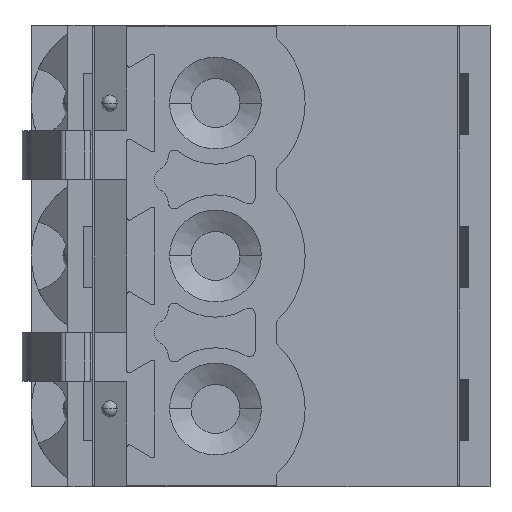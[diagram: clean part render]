
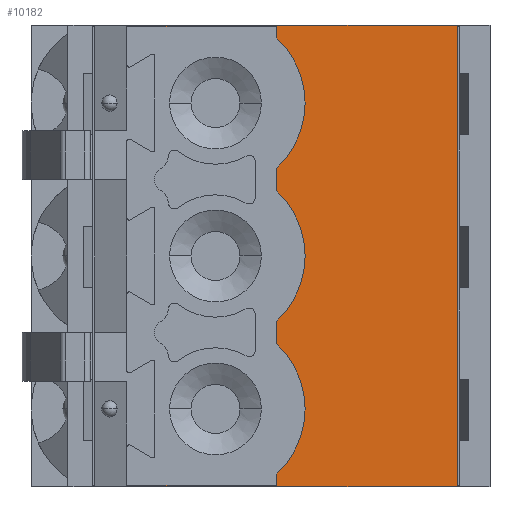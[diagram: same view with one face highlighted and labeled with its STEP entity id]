
A CAD part, front view. The second image highlights one B-rep face of the part: STEP entity #10182.
In plain terms, the highlighted planar face has unit normal (0, -1, 0).
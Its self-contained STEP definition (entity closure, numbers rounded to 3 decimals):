
#2503=DIRECTION('',(0.,0.,1.));
#2504=VECTOR('',#2503,0.744);
#2505=CARTESIAN_POINT('',(8.325,8.6,-44.797));
#2506=LINE('',#2505,#2504);
#2507=CARTESIAN_POINT('',(6.355,8.6,-41.925));
#2508=DIRECTION('',(0.,-1.,0.));
#2509=DIRECTION('',(0.679,0.,-0.734));
#2510=AXIS2_PLACEMENT_3D('',#2507,#2508,#2509);
#2512=DIRECTION('',(0.,0.,1.));
#2513=VECTOR('',#2512,0.048);
#2514=CARTESIAN_POINT('',(3.425,8.6,-39.425));
#2515=LINE('',#2514,#2513);
#2516=DIRECTION('',(1.,0.,0.));
#2517=VECTOR('',#2516,10.8);
#2518=CARTESIAN_POINT('',(3.425,8.6,-39.377));
#2519=LINE('',#2518,#2517);
#2520=DIRECTION('',(0.,0.,-1.));
#2521=VECTOR('',#2520,15.096);
#2522=CARTESIAN_POINT('',(14.225,8.6,-39.377));
#2523=LINE('',#2522,#2521);
#2524=DIRECTION('',(1.,0.,0.));
#2525=VECTOR('',#2524,4.9);
#2526=CARTESIAN_POINT('',(3.425,8.6,-54.425));
#2527=LINE('',#2526,#2525);
#2528=DIRECTION('',(0.,0.,1.));
#2529=VECTOR('',#2528,0.372);
#2530=CARTESIAN_POINT('',(8.325,8.6,-54.425));
#2531=LINE('',#2530,#2529);
#2532=CARTESIAN_POINT('',(6.355,8.6,-51.925));
#2533=DIRECTION('',(0.,-1.,0.));
#2534=DIRECTION('',(0.679,0.,-0.734));
#2535=AXIS2_PLACEMENT_3D('',#2532,#2533,#2534);
#2537=DIRECTION('',(0.,0.,1.));
#2538=VECTOR('',#2537,0.744);
#2539=CARTESIAN_POINT('',(8.325,8.6,-49.797));
#2540=LINE('',#2539,#2538);
#2541=CARTESIAN_POINT('',(6.355,8.6,-46.925));
#2542=DIRECTION('',(0.,-1.,0.));
#2543=DIRECTION('',(0.679,0.,-0.734));
#2544=AXIS2_PLACEMENT_3D('',#2541,#2542,#2543);
#3015=DIRECTION('',(1.,0.,0.));
#3016=VECTOR('',#3015,4.9);
#3017=CARTESIAN_POINT('',(3.425,8.6,-39.425));
#3018=LINE('',#3017,#3016);
#3031=DIRECTION('',(0.,0.,-1.));
#3032=VECTOR('',#3031,0.372);
#3033=CARTESIAN_POINT('',(8.325,8.6,-39.425));
#3034=LINE('',#3033,#3032);
#3301=DIRECTION('',(0.,0.,-1.));
#3302=VECTOR('',#3301,0.048);
#3303=CARTESIAN_POINT('',(3.425,8.6,-54.425));
#3304=LINE('',#3303,#3302);
#3331=DIRECTION('',(1.,0.,0.));
#3332=VECTOR('',#3331,10.8);
#3333=CARTESIAN_POINT('',(3.425,8.6,-54.473));
#3334=LINE('',#3333,#3332);
#5473=CARTESIAN_POINT('',(14.225,8.6,-39.377));
#5474=CARTESIAN_POINT('',(14.225,8.6,-54.473));
#5475=VERTEX_POINT('',#5473);
#5476=VERTEX_POINT('',#5474);
#5477=CARTESIAN_POINT('',(8.325,8.6,-44.797));
#5478=CARTESIAN_POINT('',(8.325,8.6,-44.053));
#5479=VERTEX_POINT('',#5477);
#5480=VERTEX_POINT('',#5478);
#5481=CARTESIAN_POINT('',(8.325,8.6,-39.797));
#5482=VERTEX_POINT('',#5481);
#5483=CARTESIAN_POINT('',(8.325,8.6,-39.425));
#5484=VERTEX_POINT('',#5483);
#5485=CARTESIAN_POINT('',(3.425,8.6,-39.425));
#5486=VERTEX_POINT('',#5485);
#5487=CARTESIAN_POINT('',(3.425,8.6,-39.377));
#5488=VERTEX_POINT('',#5487);
#5489=CARTESIAN_POINT('',(3.425,8.6,-54.473));
#5490=VERTEX_POINT('',#5489);
#5491=CARTESIAN_POINT('',(3.425,8.6,-54.425));
#5492=VERTEX_POINT('',#5491);
#5493=CARTESIAN_POINT('',(8.325,8.6,-54.425));
#5494=VERTEX_POINT('',#5493);
#5495=CARTESIAN_POINT('',(8.325,8.6,-54.053));
#5496=VERTEX_POINT('',#5495);
#5497=CARTESIAN_POINT('',(8.325,8.6,-49.797));
#5498=VERTEX_POINT('',#5497);
#5499=CARTESIAN_POINT('',(8.325,8.6,-49.053));
#5500=VERTEX_POINT('',#5499);
#10149=CARTESIAN_POINT('',(9.255,8.6,-54.425));
#10150=DIRECTION('',(0.,-1.,0.));
#10151=DIRECTION('',(1.,0.,0.));
#10152=AXIS2_PLACEMENT_3D('',#10149,#10150,#10151);
#10153=PLANE('',#10152);
#10155=ORIENTED_EDGE('',*,*,#10154,.T.);
#10157=ORIENTED_EDGE('',*,*,#10156,.T.);
#10159=ORIENTED_EDGE('',*,*,#10158,.F.);
#10161=ORIENTED_EDGE('',*,*,#10160,.F.);
#10163=ORIENTED_EDGE('',*,*,#10162,.T.);
#10164=ORIENTED_EDGE('',*,*,#10141,.T.);
#10165=ORIENTED_EDGE('',*,*,#8140,.T.);
#10167=ORIENTED_EDGE('',*,*,#10166,.F.);
#10169=ORIENTED_EDGE('',*,*,#10168,.F.);
#10171=ORIENTED_EDGE('',*,*,#10170,.T.);
#10173=ORIENTED_EDGE('',*,*,#10172,.T.);
#10175=ORIENTED_EDGE('',*,*,#10174,.T.);
#10177=ORIENTED_EDGE('',*,*,#10176,.T.);
#10179=ORIENTED_EDGE('',*,*,#10178,.T.);
#10180=EDGE_LOOP('',(#10155,#10157,#10159,#10161,#10163,#10164,#10165,#10167,
#10169,#10171,#10173,#10175,#10177,#10179));
#10181=FACE_OUTER_BOUND('',#10180,.F.);
#10182=ADVANCED_FACE('',(#10181),#10153,.T.);
#2511=CIRCLE('',#2510,2.9);
#2536=CIRCLE('',#2535,2.9);
#2545=CIRCLE('',#2544,2.9);
#8140=EDGE_CURVE('',#5475,#5476,#2523,.T.);
#10141=EDGE_CURVE('',#5488,#5475,#2519,.T.);
#10154=EDGE_CURVE('',#5479,#5480,#2506,.T.);
#10156=EDGE_CURVE('',#5480,#5482,#2511,.T.);
#10158=EDGE_CURVE('',#5484,#5482,#3034,.T.);
#10160=EDGE_CURVE('',#5486,#5484,#3018,.T.);
#10162=EDGE_CURVE('',#5486,#5488,#2515,.T.);
#10166=EDGE_CURVE('',#5490,#5476,#3334,.T.);
#10168=EDGE_CURVE('',#5492,#5490,#3304,.T.);
#10170=EDGE_CURVE('',#5492,#5494,#2527,.T.);
#10172=EDGE_CURVE('',#5494,#5496,#2531,.T.);
#10174=EDGE_CURVE('',#5496,#5498,#2536,.T.);
#10176=EDGE_CURVE('',#5498,#5500,#2540,.T.);
#10178=EDGE_CURVE('',#5500,#5479,#2545,.T.);
